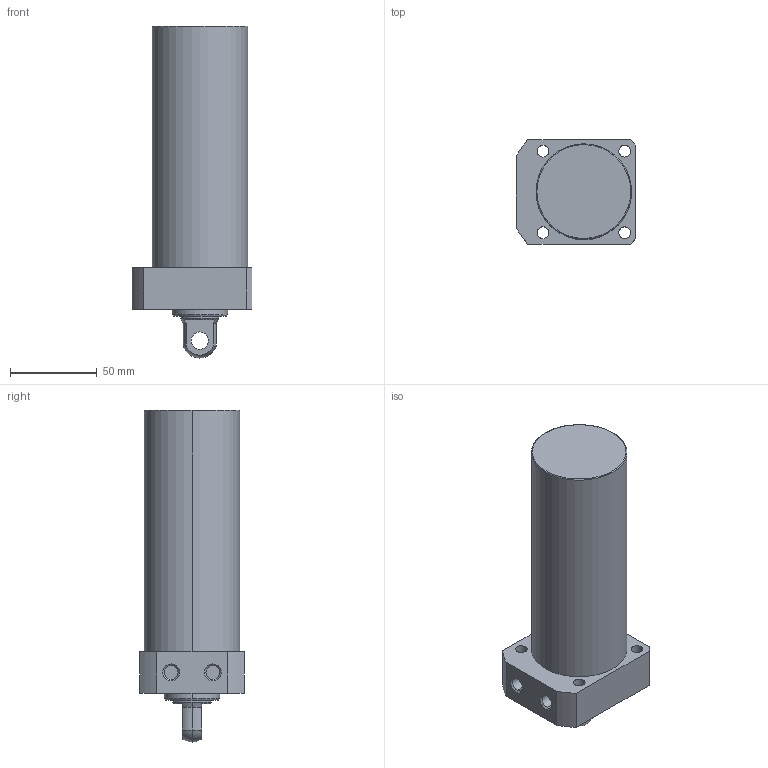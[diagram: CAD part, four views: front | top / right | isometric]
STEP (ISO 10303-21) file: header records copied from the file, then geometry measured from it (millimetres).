
FILE_DESCRIPTION (( 'STEP AP203' ), '1' );
FILE_NAME ('CLLR-055CP-110.STEP', '2019-12-17T12:37:51', ( '' ), ( '' ), 'SwSTEP 2.0', 'SolidWorks 2015', '' );
FILE_SCHEMA (( 'CONFIG_CONTROL_DESIGN' ));
Length unit declared in the file: millimetre
Products named in the file (1): CLLR-055CP-110
Bounding box: 69 x 60 x 191 mm (x, y, z)
Volume: 429764.2 mm3; surface area: 42235.6 mm2
Topology: 1 solids, 1 shells, 59 faces, 139 edges, 89 vertices
Faces by surface type: cylinder 29, plane 18, cone 8, torus 2, sphere 2
Entity records: 1822 total; most frequent: DIRECTION 331, CARTESIAN_POINT 300, ORIENTED_EDGE 278, EDGE_CURVE 139, AXIS2_PLACEMENT_3D 136, VERTEX_POINT 89, CIRCLE 76, EDGE_LOOP 76
